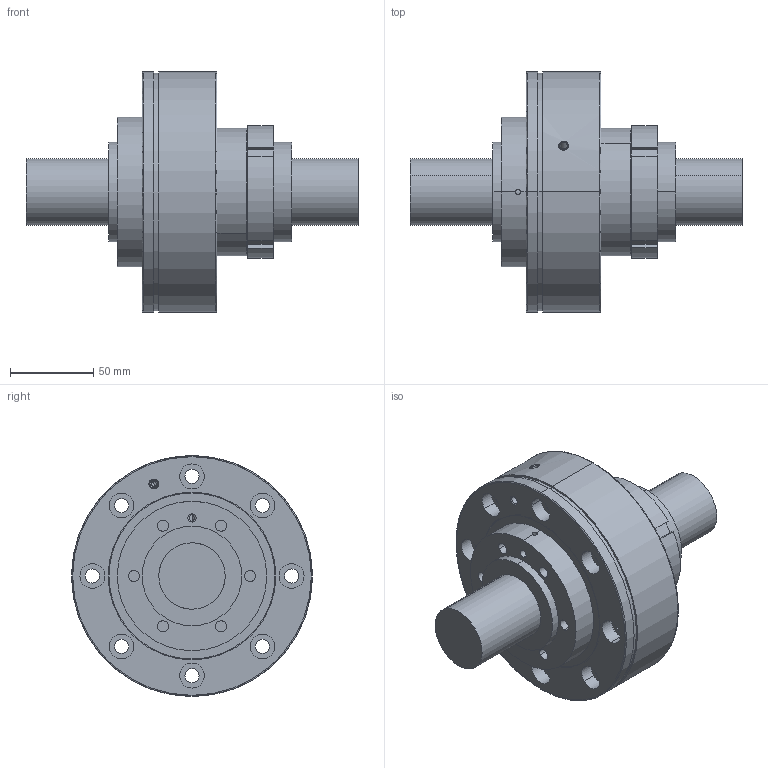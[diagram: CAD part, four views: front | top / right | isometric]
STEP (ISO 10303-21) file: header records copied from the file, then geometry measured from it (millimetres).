
FILE_DESCRIPTION (( 'STEP AP214' ), '1' );
FILE_NAME ('R40-20T2-AME.STEP', '2011-07-22T08:06:37', ( 'test' ), ( '' ), 'SwSTEP 2.0', 'SolidWorks 2010', '' );
FILE_SCHEMA (( 'AUTOMOTIVE_DESIGN' ));
Length unit declared in the file: millimetre
Products named in the file (6): 10001076~1_Vereinfachung<Standard>; 10002710~0; 10002705~0; 10002545~0; 10002713~0; R40-20T2-AME
Assembly tree (5 placements, depth 2):
  R40-20T2-AME
    10001076~1_Vereinfachung<Standard>
    10002710~0
    10002705~0
    10002545~0
    10002713~0
Bounding box: 200 x 145 x 145 mm (x, y, z)
Volume: 1056118.6 mm3; surface area: 230811.6 mm2
Topology: 19 solids, 19 shells, 279 faces, 690 edges, 430 vertices
Faces by surface type: bspline 150, cylinder 68, plane 59, cone 2
Entity records: 12898 total; most frequent: CARTESIAN_POINT 3879, ORIENTED_EDGE 1316, DIRECTION 1200, EDGE_CURVE 658, AXIS2_PLACEMENT_3D 493, VERTEX_POINT 430, CIRCLE 356, EDGE_LOOP 348
